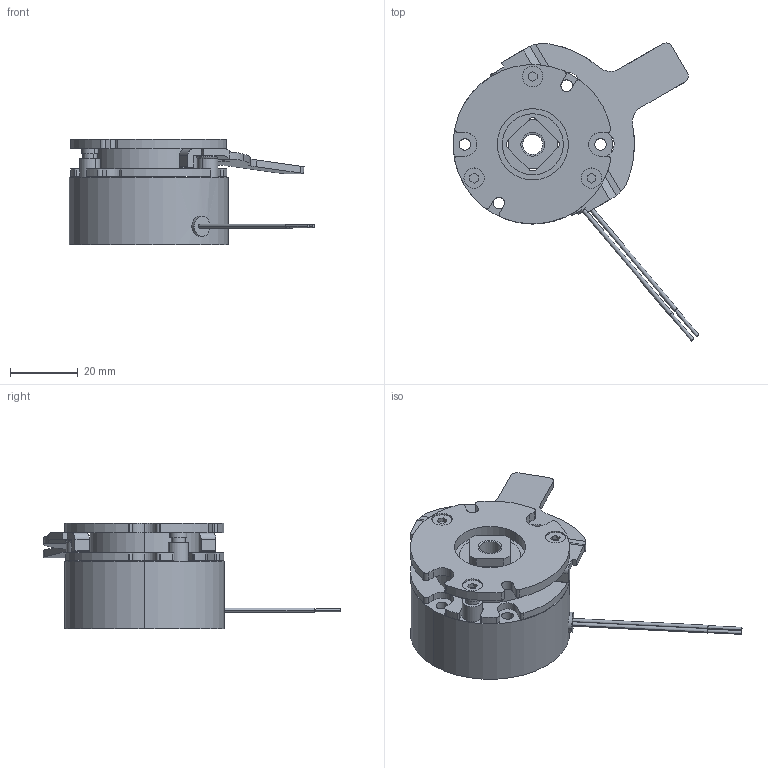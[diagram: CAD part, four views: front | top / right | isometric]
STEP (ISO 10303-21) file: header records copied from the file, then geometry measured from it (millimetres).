
FILE_DESCRIPTION (( 'STEP AP214' ), '1' );
FILE_NAME ('BXW-02-12S-6.STEP', '2018-10-30T07:48:32', ( 'MIKI' ), ( '' ), 'SwSTEP 2.0', 'SolidWorks 2012', '' );
FILE_SCHEMA (( 'AUTOMOTIVE_DESIGN' ));
Length unit declared in the file: millimetre
Products named in the file (1): BXW-02-12S-6
Bounding box: 72.5 x 87.9 x 31.2 mm (x, y, z)
Volume: 43780.2 mm3; surface area: 18987.9 mm2
Topology: 4 solids, 4 shells, 331 faces, 873 edges, 568 vertices
Faces by surface type: cylinder 160, plane 147, cone 16, torus 8
Entity records: 14217 total; most frequent: CARTESIAN_POINT 2099, DIRECTION 1809, ORIENTED_EDGE 1738, EDGE_CURVE 869, AXIS2_PLACEMENT_3D 656, VERTEX_POINT 568, VECTOR 497, LINE 497
